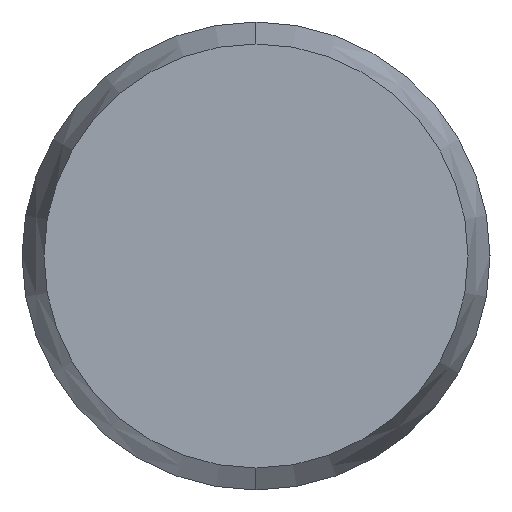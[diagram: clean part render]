
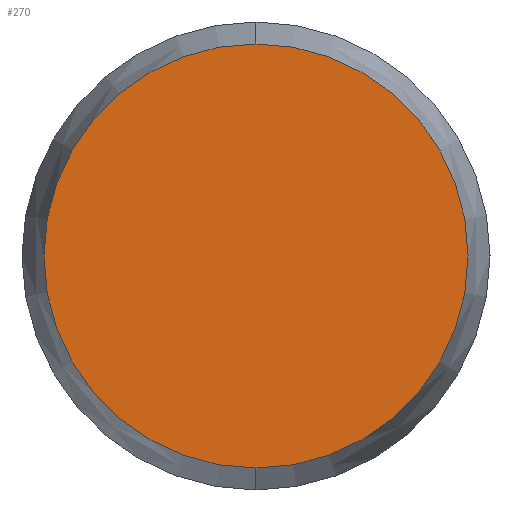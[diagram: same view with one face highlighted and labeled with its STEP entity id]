
A CAD part, left-side view. The second image highlights one B-rep face of the part: STEP entity #270.
In plain terms, the highlighted planar face has unit normal (-1, 0, 0).
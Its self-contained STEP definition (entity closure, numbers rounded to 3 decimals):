
#1 = CIRCLE ( 'NONE', #5, 1.812 ) ;
#2 = CARTESIAN_POINT ( 'NONE',  ( -16., 0., 0. ) ) ;
#3 = DIRECTION ( 'NONE',  ( 0., 0., -1. ) ) ;
#4 = DIRECTION ( 'NONE',  ( 1., 0., 0. ) ) ;
#5 = AXIS2_PLACEMENT_3D ( 'NONE', #2, #4, #3 ) ;
#39 = DIRECTION ( 'NONE',  ( 1., 0., 0. ) ) ;
#40 = CARTESIAN_POINT ( 'NONE',  ( -16., 0., 0. ) ) ;
#45 = CIRCLE ( 'NONE', #46, 1.812 ) ;
#46 = AXIS2_PLACEMENT_3D ( 'NONE', #40, #39, #47 ) ;
#47 = DIRECTION ( 'NONE',  ( 0., 0., -1. ) ) ;
#48 = CARTESIAN_POINT ( 'NONE',  ( -16., 0., 1.812 ) ) ;
#65 = CARTESIAN_POINT ( 'NONE',  ( -16., 0., -1.812 ) ) ;
#107 = AXIS2_PLACEMENT_3D ( 'NONE', #118, #117, #128 ) ;
#108 = PLANE ( 'NONE',  #107 ) ;
#117 = DIRECTION ( 'NONE',  ( 1., 0., 0. ) ) ;
#118 = CARTESIAN_POINT ( 'NONE',  ( -16., 0., 0. ) ) ;
#128 = DIRECTION ( 'NONE',  ( 0., 0., -1. ) ) ;
#136 = FACE_OUTER_BOUND ( 'NONE', #272, .T. ) ;
#215 = EDGE_CURVE ( 'NONE', #245, #232, #1, .T. ) ;
#232 = VERTEX_POINT ( 'NONE', #48 ) ;
#239 = EDGE_CURVE ( 'NONE', #232, #245, #45, .T. ) ;
#245 = VERTEX_POINT ( 'NONE', #65 ) ;
#270 = ADVANCED_FACE ( 'NONE', ( #136 ), #108, .F. ) ;
#271 = ORIENTED_EDGE ( 'NONE', *, *, #239, .F. ) ;
#272 = EDGE_LOOP ( 'NONE', ( #271, #274 ) ) ;
#274 = ORIENTED_EDGE ( 'NONE', *, *, #215, .F. ) ;
